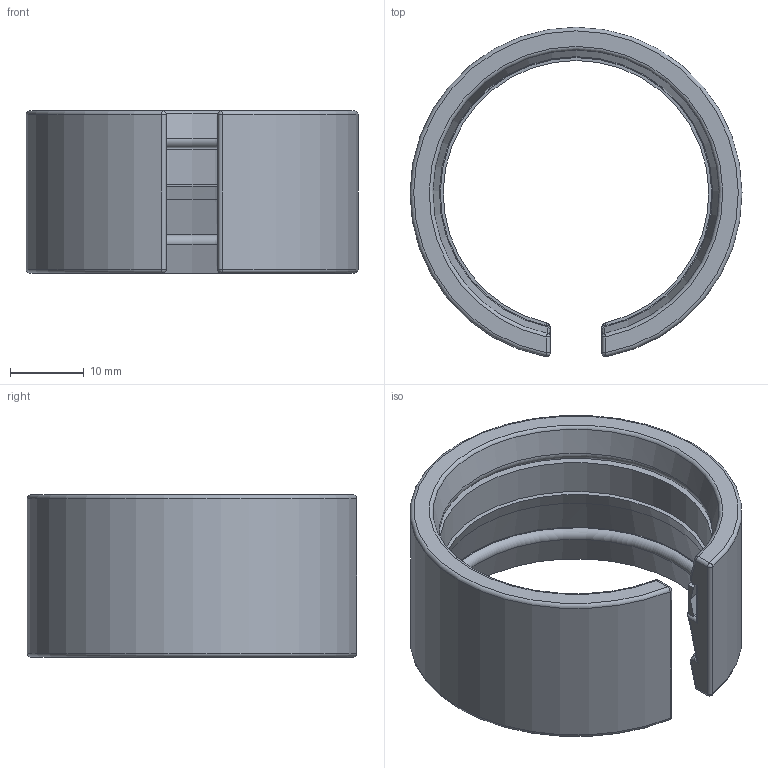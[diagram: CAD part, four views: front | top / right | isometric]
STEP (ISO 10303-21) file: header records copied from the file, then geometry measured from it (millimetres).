
FILE_DESCRIPTION(/* description */ (''),/* implementation_level */ '2;1');
FILE_NAME(/* name */ '/Users/paul/Documents/CrealityPrinter/stl files/DysonBracket/MyRemix/Upload/Dyson-Single_BridgeCollar-V3.step',/* time_stamp */ '2021-07-06T10:17:18+01:00',/* author */ (''),/* organization */ (''),/* preprocessor_version */ 'ST-DEVELOPER v18.1',/* originating_system */ 'Autodesk Translation Framework v10.9.0.1377',/* authorisation */ '');
FILE_SCHEMA (('AUTOMOTIVE_DESIGN { 1 0 10303 214 3 1 1 }'));
Length unit declared in the file: millimetre
Products named in the file (1): Single Bracket
Bounding box: 45 x 44.63 x 22 mm (x, y, z)
Volume: 9549.1 mm3; surface area: 7955.2 mm2
Topology: 2 solids, 2 shells, 57 faces, 137 edges, 84 vertices
Faces by surface type: cylinder 17, bspline 12, plane 11, sphere 6, cone 6, torus 5
Entity records: 2088 total; most frequent: CARTESIAN_POINT 833, ORIENTED_EDGE 274, DIRECTION 228, EDGE_CURVE 137, AXIS2_PLACEMENT_3D 97, VERTEX_POINT 84, FACE_OUTER_BOUND 57, EDGE_LOOP 57
